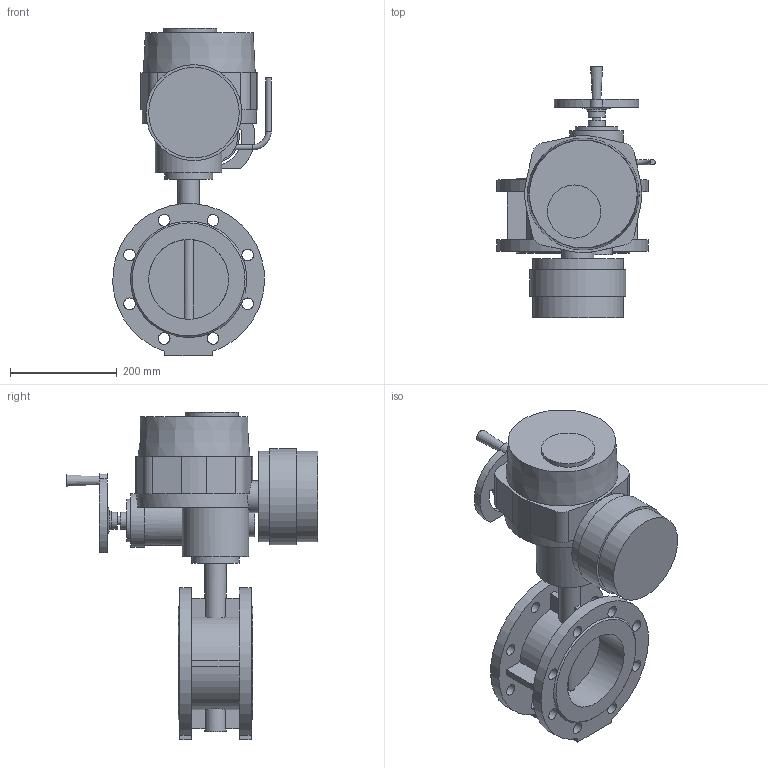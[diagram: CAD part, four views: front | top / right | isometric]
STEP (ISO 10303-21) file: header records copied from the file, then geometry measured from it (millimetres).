
FILE_DESCRIPTION(('STEP AP203'), '1');
FILE_NAME('青蜮铕 021F.Y DN150+菹 QT.A015', '', ('UNSPECIFIED'), ('UNSPECIFIED'), 'ASCON STEP Converter 1.6', 'ASCON Math Kernel', '');
FILE_SCHEMA(('CONFIG_CONTROL_DESIGN'));
Length unit declared in the file: millimetre
Bounding box: 297.3 x 472 x 614 mm (x, y, z)
Volume: 14406520.6 mm3; surface area: 842204.3 mm2
Topology: 1 solids, 1 shells, 171 faces, 436 edges, 284 vertices
Faces by surface type: plane 87, cylinder 78, cone 5, torus 1
Full cylindrical faces by diameter (mm): 6.7 x8, 10 x6, 16 x1, 22 x16, 32 x2, 35 x1, 40 x2, 60 x1, 80 x1, 90 x1, 100 x2, 125 x1, 150 x2, 170 x2, 180 x1
Entity records: 7748 total; most frequent: CARTESIAN_POINT 2320, DIRECTION 862, ORIENTED_EDGE 728, EDGE_CURVE 364, AXIS2_PLACEMENT_3D 352, EDGE_LOOP 294, VERTEX_POINT 274, FACE_BOUND 205
